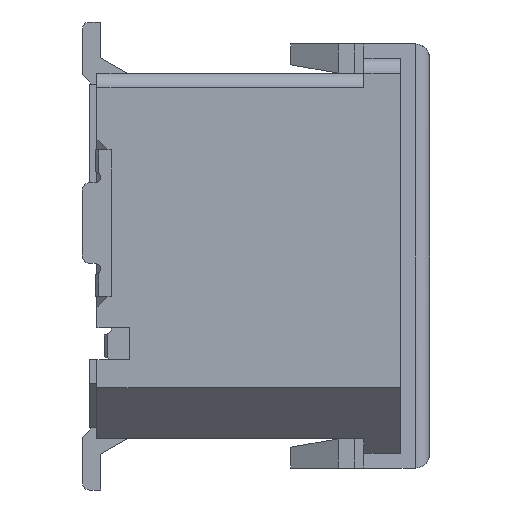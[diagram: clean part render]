
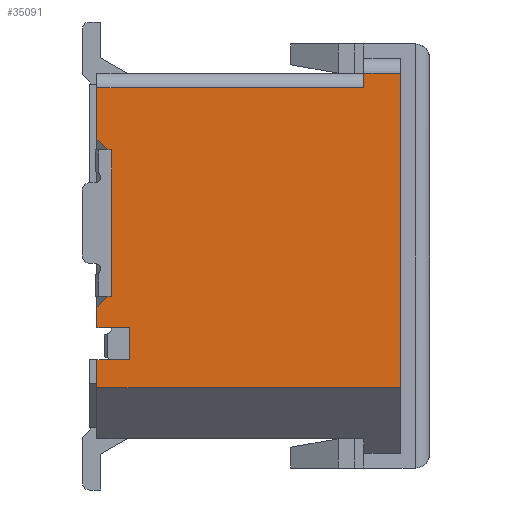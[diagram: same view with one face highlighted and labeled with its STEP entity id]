
A CAD part, left-side view. The second image highlights one B-rep face of the part: STEP entity #35091.
In plain terms, the highlighted planar face has unit normal (-1, 0, 0).
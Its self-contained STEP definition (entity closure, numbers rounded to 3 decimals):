
#3327=FACE_OUTER_BOUND('',#5199,.T.);
#5199=EDGE_LOOP('',(#30653,#30654,#30655,#30656,#30657,#30658,#30659,#30660,
#30661,#30662,#30663,#30664,#30665,#30666,#30667,#30668));
#9089=LINE('',#54903,#13447);
#9150=LINE('',#55009,#13508);
#9300=LINE('',#55271,#13658);
#9304=LINE('',#55279,#13662);
#9334=LINE('',#55339,#13692);
#9335=LINE('',#55342,#13693);
#9336=LINE('',#55344,#13694);
#9337=LINE('',#55346,#13695);
#9338=LINE('',#55347,#13696);
#9339=LINE('',#55349,#13697);
#9340=LINE('',#55351,#13698);
#9341=LINE('',#55353,#13699);
#9342=LINE('',#55355,#13700);
#9343=LINE('',#55356,#13701);
#9344=LINE('',#55357,#13702);
#9345=LINE('',#55358,#13703);
#13447=VECTOR('',#45196,0.44);
#13508=VECTOR('',#45267,4.3);
#13658=VECTOR('',#45443,0.28);
#13662=VECTOR('',#45447,0.7);
#13692=VECTOR('',#45493,0.45);
#13693=VECTOR('',#45496,4.15);
#13694=VECTOR('',#45497,0.5);
#13695=VECTOR('',#45498,0.2);
#13696=VECTOR('',#45499,3.65);
#13697=VECTOR('',#45500,0.212);
#13698=VECTOR('',#45501,0.05);
#13699=VECTOR('',#45502,2.);
#13700=VECTOR('',#45503,0.05);
#13701=VECTOR('',#45504,0.212);
#13702=VECTOR('',#45505,0.45);
#13703=VECTOR('',#45506,0.38);
#16856=VERTEX_POINT('',#54900);
#16857=VERTEX_POINT('',#54902);
#16896=VERTEX_POINT('',#55006);
#16897=VERTEX_POINT('',#55008);
#16995=VERTEX_POINT('',#55268);
#16996=VERTEX_POINT('',#55270);
#16999=VERTEX_POINT('',#55276);
#17000=VERTEX_POINT('',#55278);
#17022=VERTEX_POINT('',#55337);
#17023=VERTEX_POINT('',#55341);
#17024=VERTEX_POINT('',#55343);
#17025=VERTEX_POINT('',#55345);
#17026=VERTEX_POINT('',#55348);
#17027=VERTEX_POINT('',#55350);
#17028=VERTEX_POINT('',#55352);
#17029=VERTEX_POINT('',#55354);
#21401=EDGE_CURVE('',#16856,#16857,#9089,.T.);
#21463=EDGE_CURVE('',#16897,#16896,#9150,.T.);
#21613=EDGE_CURVE('',#16996,#16995,#9300,.T.);
#21617=EDGE_CURVE('',#17000,#16999,#9304,.T.);
#21648=EDGE_CURVE('',#16856,#17022,#9334,.T.);
#21649=EDGE_CURVE('',#17023,#16897,#9335,.T.);
#21650=EDGE_CURVE('',#16896,#17024,#9336,.T.);
#21651=EDGE_CURVE('',#17025,#17024,#9337,.T.);
#21652=EDGE_CURVE('',#17025,#17000,#9338,.T.);
#21653=EDGE_CURVE('',#17026,#16999,#9339,.T.);
#21654=EDGE_CURVE('',#17026,#17027,#9340,.T.);
#21655=EDGE_CURVE('',#17028,#17027,#9341,.T.);
#21656=EDGE_CURVE('',#17028,#17029,#9342,.T.);
#21657=EDGE_CURVE('',#16996,#17029,#9343,.T.);
#21658=EDGE_CURVE('',#16995,#16857,#9344,.T.);
#21659=EDGE_CURVE('',#17022,#17023,#9345,.T.);
#30653=ORIENTED_EDGE('',*,*,#21649,.T.);
#30654=ORIENTED_EDGE('',*,*,#21463,.T.);
#30655=ORIENTED_EDGE('',*,*,#21650,.T.);
#30656=ORIENTED_EDGE('',*,*,#21651,.F.);
#30657=ORIENTED_EDGE('',*,*,#21652,.T.);
#30658=ORIENTED_EDGE('',*,*,#21617,.T.);
#30659=ORIENTED_EDGE('',*,*,#21653,.F.);
#30660=ORIENTED_EDGE('',*,*,#21654,.T.);
#30661=ORIENTED_EDGE('',*,*,#21655,.F.);
#30662=ORIENTED_EDGE('',*,*,#21656,.T.);
#30663=ORIENTED_EDGE('',*,*,#21657,.F.);
#30664=ORIENTED_EDGE('',*,*,#21613,.T.);
#30665=ORIENTED_EDGE('',*,*,#21658,.T.);
#30666=ORIENTED_EDGE('',*,*,#21401,.F.);
#30667=ORIENTED_EDGE('',*,*,#21648,.T.);
#30668=ORIENTED_EDGE('',*,*,#21659,.T.);
#33326=PLANE('',#37344);
#35091=ADVANCED_FACE('',(#3327),#33326,.F.);
#37344=AXIS2_PLACEMENT_3D('',#55340,#45494,#45495);
#45196=DIRECTION('',(0.,0.,1.));
#45267=DIRECTION('',(0.,0.,1.));
#45443=DIRECTION('',(0.,0.,-1.));
#45447=DIRECTION('',(0.,0.,-1.));
#45493=DIRECTION('',(0.,1.,0.));
#45494=DIRECTION('center_axis',(1.,0.,0.));
#45495=DIRECTION('ref_axis',(0.,-1.,0.));
#45496=DIRECTION('',(0.,-1.,0.));
#45497=DIRECTION('',(0.,1.,0.));
#45498=DIRECTION('',(0.,0.,1.));
#45499=DIRECTION('',(0.,1.,0.));
#45500=DIRECTION('',(0.,0.707,0.707));
#45501=DIRECTION('',(0.,-1.,0.));
#45502=DIRECTION('',(0.,0.,1.));
#45503=DIRECTION('',(0.,1.,0.));
#45504=DIRECTION('',(0.,-0.707,0.707));
#45505=DIRECTION('',(0.,-1.,0.));
#45506=DIRECTION('',(0.,0.,-1.));
#54900=CARTESIAN_POINT('',(-8.,3.73,-4.62));
#54902=CARTESIAN_POINT('',(-8.,3.73,-4.18));
#54903=CARTESIAN_POINT('',(-8.,3.73,-4.62));
#55006=CARTESIAN_POINT('',(-8.,0.03,-0.7));
#55008=CARTESIAN_POINT('',(-8.,0.03,-5.));
#55009=CARTESIAN_POINT('',(-8.,0.03,-5.));
#55268=CARTESIAN_POINT('',(-8.,4.18,-4.18));
#55270=CARTESIAN_POINT('',(-8.,4.18,-3.9));
#55271=CARTESIAN_POINT('',(-8.,4.18,-3.9));
#55276=CARTESIAN_POINT('',(-8.,4.18,-1.6));
#55278=CARTESIAN_POINT('',(-8.,4.18,-0.9));
#55279=CARTESIAN_POINT('',(-8.,4.18,-0.9));
#55337=CARTESIAN_POINT('',(-8.,4.18,-4.62));
#55339=CARTESIAN_POINT('',(-8.,3.73,-4.62));
#55340=CARTESIAN_POINT('Origin',(-8.,2.105,-2.85));
#55341=CARTESIAN_POINT('',(-8.,4.18,-5.));
#55342=CARTESIAN_POINT('',(-8.,4.18,-5.));
#55343=CARTESIAN_POINT('',(-8.,0.53,-0.7));
#55344=CARTESIAN_POINT('',(-8.,0.03,-0.7));
#55345=CARTESIAN_POINT('',(-8.,0.53,-0.9));
#55346=CARTESIAN_POINT('',(-8.,0.53,-0.9));
#55347=CARTESIAN_POINT('',(-8.,0.53,-0.9));
#55348=CARTESIAN_POINT('',(-8.,4.03,-1.75));
#55349=CARTESIAN_POINT('',(-8.,4.03,-1.75));
#55350=CARTESIAN_POINT('',(-8.,3.98,-1.75));
#55351=CARTESIAN_POINT('',(-8.,4.03,-1.75));
#55352=CARTESIAN_POINT('',(-8.,3.98,-3.75));
#55353=CARTESIAN_POINT('',(-8.,3.98,-3.75));
#55354=CARTESIAN_POINT('',(-8.,4.03,-3.75));
#55355=CARTESIAN_POINT('',(-8.,3.98,-3.75));
#55356=CARTESIAN_POINT('',(-8.,4.18,-3.9));
#55357=CARTESIAN_POINT('',(-8.,4.18,-4.18));
#55358=CARTESIAN_POINT('',(-8.,4.18,-4.62));
